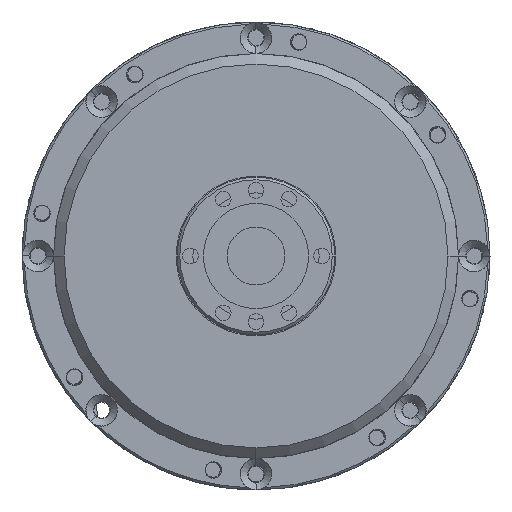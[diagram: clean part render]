
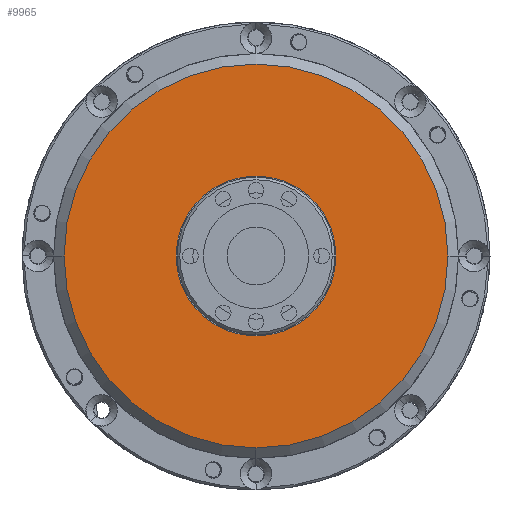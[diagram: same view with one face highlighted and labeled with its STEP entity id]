
A CAD part, front view. The second image highlights one B-rep face of the part: STEP entity #9965.
In plain terms, the highlighted planar face has unit normal (0, -1, 0).
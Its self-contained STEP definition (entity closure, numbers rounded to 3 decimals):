
#148 = DIRECTION ( 'NONE',  ( -1., 0., 0. ) ) ;
#601 = ORIENTED_EDGE ( 'NONE', *, *, #11338, .T. ) ;
#1068 = CARTESIAN_POINT ( 'NONE',  ( -36.5, 0., 0. ) ) ;
#1268 = VERTEX_POINT ( 'NONE', #13626 ) ;
#1523 = AXIS2_PLACEMENT_3D ( 'NONE', #6962, #16005, #148 ) ;
#1670 = AXIS2_PLACEMENT_3D ( 'NONE', #15814, #1901, #8960 ) ;
#1838 = AXIS2_PLACEMENT_3D ( 'NONE', #10633, #6814, #21341 ) ;
#1846 = CARTESIAN_POINT ( 'NONE',  ( 0., 0., -15.2 ) ) ;
#1901 = DIRECTION ( 'NONE',  ( 0., 1., 0. ) ) ;
#2203 = DIRECTION ( 'NONE',  ( 1., 0., 0. ) ) ;
#2282 = EDGE_LOOP ( 'NONE', ( #4953, #16953 ) ) ;
#3642 = CARTESIAN_POINT ( 'NONE',  ( 0., 0., 0. ) ) ;
#4953 = ORIENTED_EDGE ( 'NONE', *, *, #6785, .T. ) ;
#5278 = VERTEX_POINT ( 'NONE', #9027 ) ;
#6159 = CIRCLE ( 'NONE', #8771, 36.5 ) ;
#6785 = EDGE_CURVE ( 'NONE', #9458, #11329, #11644, .T. ) ;
#6814 = DIRECTION ( 'NONE',  ( 0., 1., 0. ) ) ;
#6962 = CARTESIAN_POINT ( 'NONE',  ( 0., 0., 0. ) ) ;
#6966 = VERTEX_POINT ( 'NONE', #1068 ) ;
#7102 = AXIS2_PLACEMENT_3D ( 'NONE', #18467, #9607, #2203 ) ;
#7272 = DIRECTION ( 'NONE',  ( 0., -1., 0. ) ) ;
#8049 = CIRCLE ( 'NONE', #12134, 36.5 ) ;
#8771 = AXIS2_PLACEMENT_3D ( 'NONE', #12040, #7272, #20879 ) ;
#8960 = DIRECTION ( 'NONE',  ( 0., 0., 1. ) ) ;
#9027 = CARTESIAN_POINT ( 'NONE',  ( 36.5, 0., 0. ) ) ;
#9458 = VERTEX_POINT ( 'NONE', #19328 ) ;
#9607 = DIRECTION ( 'NONE',  ( 0., 1., 0. ) ) ;
#9965 = ADVANCED_FACE ( 'NONE', ( #21708, #16575 ), #19859, .F. ) ;
#10204 = EDGE_CURVE ( 'NONE', #11329, #9458, #11438, .T. ) ;
#10633 = CARTESIAN_POINT ( 'NONE',  ( 0., 0., 0. ) ) ;
#11069 = EDGE_LOOP ( 'NONE', ( #19233, #601, #17534 ) ) ;
#11329 = VERTEX_POINT ( 'NONE', #1846 ) ;
#11338 = EDGE_CURVE ( 'NONE', #1268, #5278, #6159, .T. ) ;
#11438 = CIRCLE ( 'NONE', #1838, 15.2 ) ;
#11502 = CIRCLE ( 'NONE', #1523, 36.5 ) ;
#11644 = CIRCLE ( 'NONE', #1670, 15.2 ) ;
#12040 = CARTESIAN_POINT ( 'NONE',  ( 0., 0., 0. ) ) ;
#12134 = AXIS2_PLACEMENT_3D ( 'NONE', #3642, #18157, #16045 ) ;
#12186 = EDGE_CURVE ( 'NONE', #5278, #6966, #8049, .T. ) ;
#13626 = CARTESIAN_POINT ( 'NONE',  ( 0., 0., -36.5 ) ) ;
#15814 = CARTESIAN_POINT ( 'NONE',  ( 0., 0., 0. ) ) ;
#16005 = DIRECTION ( 'NONE',  ( 0., -1., 0. ) ) ;
#16045 = DIRECTION ( 'NONE',  ( 1., 0., 0. ) ) ;
#16575 = FACE_OUTER_BOUND ( 'NONE', #11069, .T. ) ;
#16953 = ORIENTED_EDGE ( 'NONE', *, *, #10204, .T. ) ;
#17534 = ORIENTED_EDGE ( 'NONE', *, *, #12186, .T. ) ;
#18157 = DIRECTION ( 'NONE',  ( 0., -1., 0. ) ) ;
#18348 = EDGE_CURVE ( 'NONE', #6966, #1268, #11502, .T. ) ;
#18467 = CARTESIAN_POINT ( 'NONE',  ( 0., 0., 0. ) ) ;
#19233 = ORIENTED_EDGE ( 'NONE', *, *, #18348, .T. ) ;
#19328 = CARTESIAN_POINT ( 'NONE',  ( 0., 0., 15.2 ) ) ;
#19859 = PLANE ( 'NONE',  #7102 ) ;
#20879 = DIRECTION ( 'NONE',  ( -1., 0., 0. ) ) ;
#21341 = DIRECTION ( 'NONE',  ( 0., 0., -1. ) ) ;
#21708 = FACE_BOUND ( 'NONE', #2282, .T. ) ;
